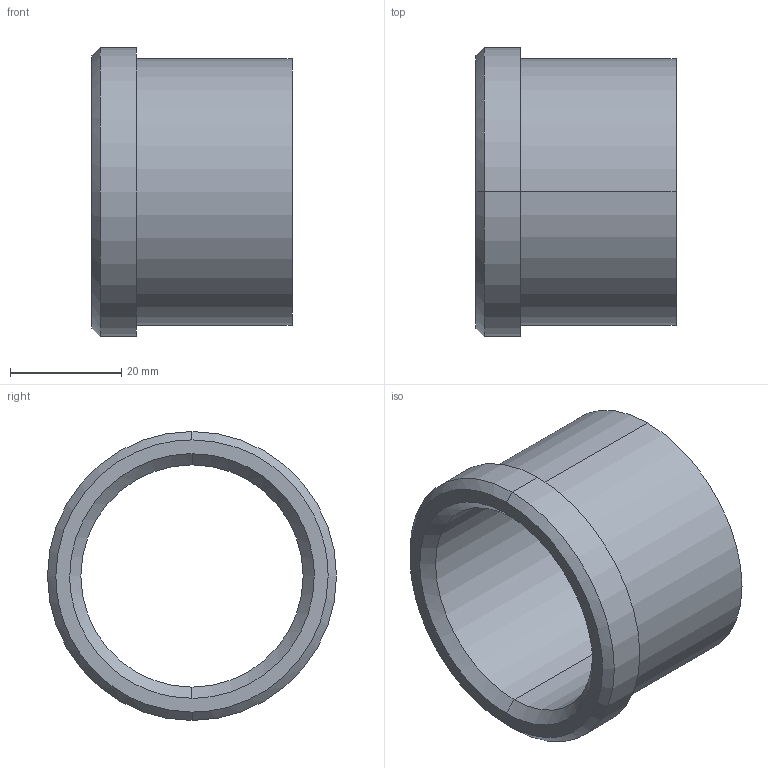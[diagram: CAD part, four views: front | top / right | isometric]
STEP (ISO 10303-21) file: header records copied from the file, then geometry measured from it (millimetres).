
FILE_DESCRIPTION(('CATIA V5 STEP Exchange'),'2;1');
FILE_NAME('C:\Users\Utente\Desktop\IO LAVORO\3D X SITO CF\X SITO\PLASTICA\353\353-40X36.stp','2021-05-13T18:27:46+00:00',('none'),('none'),'CATIA Version 5 Release 20 GA (IN-10)','CATIA V5 STEP AP203','none');
FILE_SCHEMA(('CONFIG_CONTROL_DESIGN'));
Length unit declared in the file: millimetre
Products named in the file (1): 353-40X36
Bounding box: 36 x 52 x 52 mm (x, y, z)
Volume: 21868.2 mm3; surface area: 11392.7 mm2
Topology: 1 solids, 1 shells, 15 faces, 48 edges, 36 vertices
Faces by surface type: cylinder 6, cone 4, plane 3, torus 2
Entity records: 680 total; most frequent: CARTESIAN_POINT 212, ORIENTED_EDGE 96, DIRECTION 70, EDGE_CURVE 48, AXIS2_PLACEMENT_3D 46, VERTEX_POINT 36, CIRCLE 30, EDGE_LOOP 18
